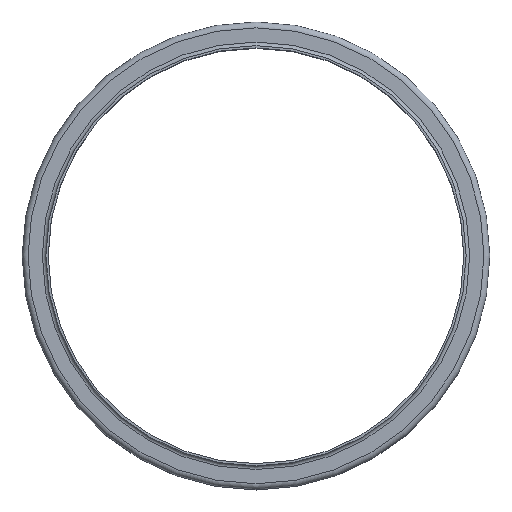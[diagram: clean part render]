
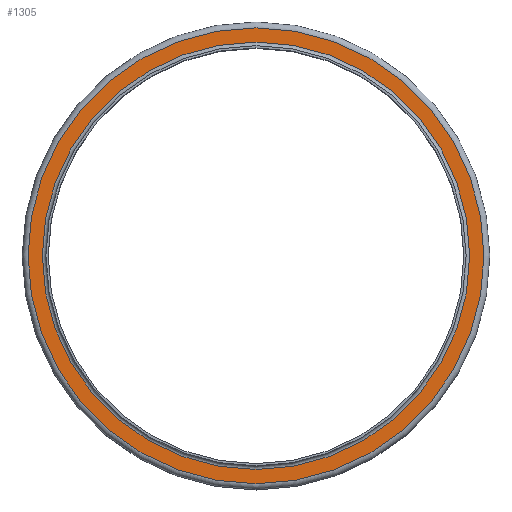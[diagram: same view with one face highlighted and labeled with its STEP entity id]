
A CAD part, top view. The second image highlights one B-rep face of the part: STEP entity #1305.
In plain terms, the highlighted planar face has unit normal (0, 0, 1).
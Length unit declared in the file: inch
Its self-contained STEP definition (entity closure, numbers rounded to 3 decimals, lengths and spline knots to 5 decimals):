
#130=FACE_BOUND('',#384,.T.);
#229=FACE_OUTER_BOUND('',#383,.T.);
#383=EDGE_LOOP('',(#1108));
#384=EDGE_LOOP('',(#1109));
#545=CIRCLE('',#1574,11.31);
#546=CIRCLE('',#1576,12.065);
#658=VERTEX_POINT('',#2470);
#659=VERTEX_POINT('',#2474);
#811=EDGE_CURVE('',#658,#658,#545,.T.);
#812=EDGE_CURVE('',#659,#659,#546,.T.);
#1108=ORIENTED_EDGE('',*,*,#812,.F.);
#1109=ORIENTED_EDGE('',*,*,#811,.T.);
#1206=PLANE('',#1575);
#1305=ADVANCED_FACE('',(#229,#130),#1206,.T.);
#1574=AXIS2_PLACEMENT_3D('',#2472,#2070,#2071);
#1575=AXIS2_PLACEMENT_3D('',#2473,#2072,#2073);
#1576=AXIS2_PLACEMENT_3D('',#2475,#2074,#2075);
#2070=DIRECTION('center_axis',(0.,0.,-1.));
#2071=DIRECTION('ref_axis',(1.,0.,0.));
#2072=DIRECTION('center_axis',(0.,0.,1.));
#2073=DIRECTION('ref_axis',(1.,0.,0.));
#2074=DIRECTION('center_axis',(0.,0.,-1.));
#2075=DIRECTION('ref_axis',(1.,0.,0.));
#2470=CARTESIAN_POINT('',(11.31,0.,-0.19));
#2472=CARTESIAN_POINT('Origin',(0.,0.,-0.19));
#2473=CARTESIAN_POINT('Origin',(0.,12.065,-0.19));
#2474=CARTESIAN_POINT('',(12.065,0.,-0.19));
#2475=CARTESIAN_POINT('Origin',(0.,0.,-0.19));
